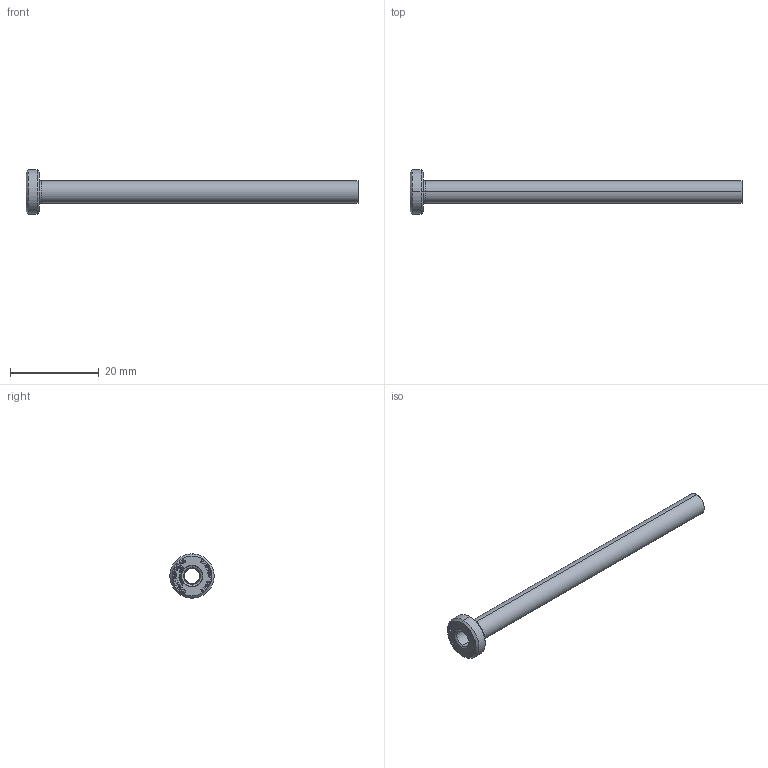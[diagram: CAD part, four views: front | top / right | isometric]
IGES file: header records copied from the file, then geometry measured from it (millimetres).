
Start section: SolidWorks IGES file using analytic representation for surfaces
Global section: file name: D:\TRIVECTOR\2026\08_Agosto\BE - BUCHA EXTRATORA (CATÁLOGO)\BE03,505075.IGS; native system: SolidWorks 2024; preprocessor: SolidWorks 2024; author: Usuario; date: 260824.154240; units: millimetre
Bounding box: 75 x 10 x 10 mm (x, y, z)
Surface area: 2207.2 mm2 (no closed solid volume)
Topology: 0 solids, 0 shells, 441 faces, 4359 edges, 4359 vertices
Faces by surface type: bspline 416, revolution 25
